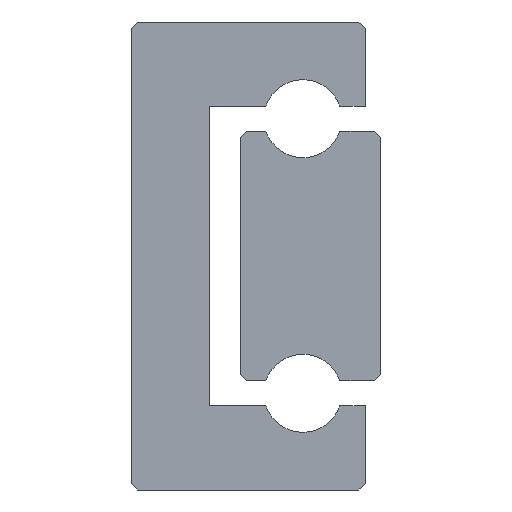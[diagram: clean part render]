
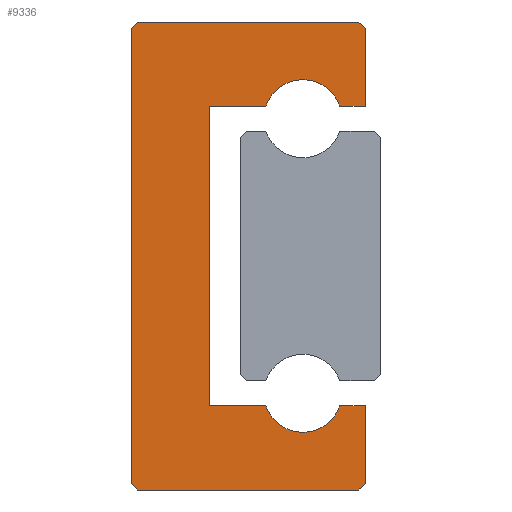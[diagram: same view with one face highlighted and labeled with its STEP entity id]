
A CAD part, left-side view. The second image highlights one B-rep face of the part: STEP entity #9336.
In plain terms, the highlighted planar face has unit normal (-1, 0, 0).
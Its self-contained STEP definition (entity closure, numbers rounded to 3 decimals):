
#73=PLANE('',#10176);
#279=LINE('',#14250,#1085);
#417=LINE('',#15023,#1223);
#420=LINE('',#15029,#1226);
#423=LINE('',#15035,#1229);
#427=LINE('',#15047,#1233);
#430=LINE('',#15069,#1236);
#433=LINE('',#15075,#1239);
#437=LINE('',#15087,#1243);
#440=LINE('',#15093,#1246);
#443=LINE('',#15099,#1249);
#446=LINE('',#15105,#1252);
#449=LINE('',#15111,#1255);
#452=LINE('',#15133,#1258);
#455=LINE('',#15139,#1261);
#1085=VECTOR('',#11133,1000.);
#1223=VECTOR('',#11769,1000.);
#1226=VECTOR('',#11774,1000.);
#1229=VECTOR('',#11779,1000.);
#1233=VECTOR('',#11791,1000.);
#1236=VECTOR('',#11812,1000.);
#1239=VECTOR('',#11817,1000.);
#1243=VECTOR('',#11829,1000.);
#1246=VECTOR('',#11834,1000.);
#1249=VECTOR('',#11839,1000.);
#1252=VECTOR('',#11844,1000.);
#1255=VECTOR('',#11849,1000.);
#1258=VECTOR('',#11870,1000.);
#1261=VECTOR('',#11875,1000.);
#2441=ORIENTED_EDGE('',*,*,#4787,.F.);
#2442=ORIENTED_EDGE('',*,*,#5231,.F.);
#2443=ORIENTED_EDGE('',*,*,#5228,.F.);
#2444=ORIENTED_EDGE('',*,*,#5217,.F.);
#2445=ORIENTED_EDGE('',*,*,#5214,.F.);
#2446=ORIENTED_EDGE('',*,*,#5211,.F.);
#2447=ORIENTED_EDGE('',*,*,#5208,.F.);
#2448=ORIENTED_EDGE('',*,*,#5205,.F.);
#2449=ORIENTED_EDGE('',*,*,#5202,.T.);
#2450=ORIENTED_EDGE('',*,*,#5199,.F.);
#2451=ORIENTED_EDGE('',*,*,#5196,.F.);
#2452=ORIENTED_EDGE('',*,*,#5185,.F.);
#2453=ORIENTED_EDGE('',*,*,#5182,.T.);
#2454=ORIENTED_EDGE('',*,*,#5179,.F.);
#2455=ORIENTED_EDGE('',*,*,#5176,.F.);
#2456=ORIENTED_EDGE('',*,*,#5173,.F.);
#4787=EDGE_CURVE('',#6213,#6214,#279,.T.);
#5173=EDGE_CURVE('',#6214,#6599,#417,.T.);
#5176=EDGE_CURVE('',#6599,#6601,#420,.T.);
#5179=EDGE_CURVE('',#6601,#6603,#423,.T.);
#5182=EDGE_CURVE('',#6605,#6603,#7413,.T.);
#5185=EDGE_CURVE('',#6605,#6607,#427,.T.);
#5196=EDGE_CURVE('',#6607,#6617,#430,.T.);
#5199=EDGE_CURVE('',#6617,#6619,#433,.T.);
#5202=EDGE_CURVE('',#6621,#6619,#7423,.T.);
#5205=EDGE_CURVE('',#6621,#6623,#437,.T.);
#5208=EDGE_CURVE('',#6623,#6625,#440,.T.);
#5211=EDGE_CURVE('',#6625,#6627,#443,.T.);
#5214=EDGE_CURVE('',#6627,#6629,#446,.T.);
#5217=EDGE_CURVE('',#6629,#6631,#449,.T.);
#5228=EDGE_CURVE('',#6631,#6641,#452,.T.);
#5231=EDGE_CURVE('',#6641,#6213,#455,.T.);
#6213=VERTEX_POINT('',#14251);
#6214=VERTEX_POINT('',#14252);
#6599=VERTEX_POINT('',#15024);
#6601=VERTEX_POINT('',#15030);
#6603=VERTEX_POINT('',#15036);
#6605=VERTEX_POINT('',#15042);
#6607=VERTEX_POINT('',#15048);
#6617=VERTEX_POINT('',#15070);
#6619=VERTEX_POINT('',#15076);
#6621=VERTEX_POINT('',#15082);
#6623=VERTEX_POINT('',#15088);
#6625=VERTEX_POINT('',#15094);
#6627=VERTEX_POINT('',#15100);
#6629=VERTEX_POINT('',#15106);
#6631=VERTEX_POINT('',#15112);
#6641=VERTEX_POINT('',#15134);
#7413=CIRCLE('',#10144,1.25);
#7423=CIRCLE('',#10158,1.25);
#7877=EDGE_LOOP('',(#2441,#2442,#2443,#2444,#2445,#2446,#2447,#2448,#2449,
#2450,#2451,#2452,#2453,#2454,#2455,#2456));
#8481=FACE_BOUND('',#7877,.T.);
#9336=ADVANCED_FACE('',(#8481),#73,.F.);
#10144=AXIS2_PLACEMENT_3D('',#15041,#11784,#11785);
#10158=AXIS2_PLACEMENT_3D('',#15081,#11822,#11823);
#10176=AXIS2_PLACEMENT_3D('',#15142,#11879,#11880);
#11133=DIRECTION('',(0.,-1.,0.));
#11769=DIRECTION('',(0.,-0.707,-0.707));
#11774=DIRECTION('',(0.,0.,-1.));
#11779=DIRECTION('',(0.,1.,0.));
#11784=DIRECTION('',(1.,0.,0.));
#11785=DIRECTION('',(0.,0.,-1.));
#11791=DIRECTION('',(0.,1.,0.));
#11812=DIRECTION('',(0.,0.,-1.));
#11817=DIRECTION('',(0.,-1.,0.));
#11822=DIRECTION('',(1.,0.,0.));
#11823=DIRECTION('',(0.,0.,-1.));
#11829=DIRECTION('',(0.,-1.,0.));
#11834=DIRECTION('',(0.,0.,-1.));
#11839=DIRECTION('',(0.,0.707,-0.707));
#11844=DIRECTION('',(0.,1.,0.));
#11849=DIRECTION('',(0.,0.707,0.707));
#11870=DIRECTION('',(0.,0.,1.));
#11875=DIRECTION('',(0.,-0.707,0.707));
#11879=DIRECTION('',(1.,0.,0.));
#11880=DIRECTION('',(0.,0.,-1.));
#14250=CARTESIAN_POINT('',(-40.,7.3,7.5));
#14251=CARTESIAN_POINT('',(-40.,7.3,7.5));
#14252=CARTESIAN_POINT('',(-40.,0.2,7.5));
#15023=CARTESIAN_POINT('',(-40.,0.2,7.5));
#15024=CARTESIAN_POINT('',(-40.,0.,7.3));
#15029=CARTESIAN_POINT('',(-40.,0.,7.3));
#15030=CARTESIAN_POINT('',(-40.,0.,4.8));
#15035=CARTESIAN_POINT('',(-40.,0.,4.8));
#15036=CARTESIAN_POINT('',(-40.,0.816,4.8));
#15041=CARTESIAN_POINT('',(-40.,2.,4.4));
#15042=CARTESIAN_POINT('',(-40.,3.184,4.8));
#15047=CARTESIAN_POINT('',(-40.,3.184,4.8));
#15048=CARTESIAN_POINT('',(-40.,5.,4.8));
#15069=CARTESIAN_POINT('',(-40.,5.,4.8));
#15070=CARTESIAN_POINT('',(-40.,5.,-4.8));
#15075=CARTESIAN_POINT('',(-40.,5.,-4.8));
#15076=CARTESIAN_POINT('',(-40.,3.184,-4.8));
#15081=CARTESIAN_POINT('',(-40.,2.,-4.4));
#15082=CARTESIAN_POINT('',(-40.,0.816,-4.8));
#15087=CARTESIAN_POINT('',(-40.,0.816,-4.8));
#15088=CARTESIAN_POINT('',(-40.,0.,-4.8));
#15093=CARTESIAN_POINT('',(-40.,0.,-4.8));
#15094=CARTESIAN_POINT('',(-40.,0.,-7.3));
#15099=CARTESIAN_POINT('',(-40.,0.,-7.3));
#15100=CARTESIAN_POINT('',(-40.,0.2,-7.5));
#15105=CARTESIAN_POINT('',(-40.,0.2,-7.5));
#15106=CARTESIAN_POINT('',(-40.,7.3,-7.5));
#15111=CARTESIAN_POINT('',(-40.,7.3,-7.5));
#15112=CARTESIAN_POINT('',(-40.,7.5,-7.3));
#15133=CARTESIAN_POINT('',(-40.,7.5,-7.3));
#15134=CARTESIAN_POINT('',(-40.,7.5,7.3));
#15139=CARTESIAN_POINT('',(-40.,7.5,7.3));
#15142=CARTESIAN_POINT('',(-40.,2.,4.4));
